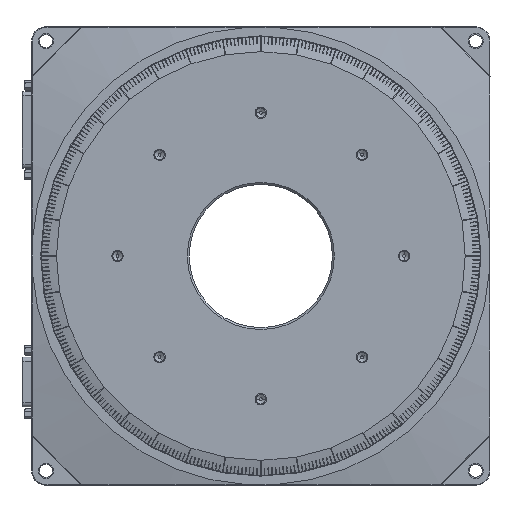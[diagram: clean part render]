
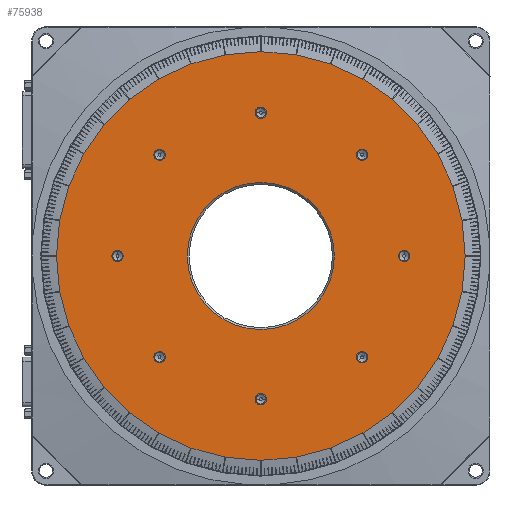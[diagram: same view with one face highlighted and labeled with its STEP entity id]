
A CAD part, front view. The second image highlights one B-rep face of the part: STEP entity #75938.
In plain terms, the highlighted planar face has unit normal (0, -1, 0) as drawn and (0, 1, 0) by its records, which use the part's own axes.
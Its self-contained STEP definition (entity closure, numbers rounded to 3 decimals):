
#41519=CARTESIAN_POINT('',(0.,5.531,0.));
#41520=DIRECTION('',(0.,1.,0.));
#41521=DIRECTION('',(0.,0.,-1.));
#41522=AXIS2_PLACEMENT_3D('',#41519,#41520,#41521);
#41527=CARTESIAN_POINT('',(0.,5.531,0.));
#41528=DIRECTION('',(0.,-1.,0.));
#41529=DIRECTION('',(0.,0.,-1.));
#41530=AXIS2_PLACEMENT_3D('',#41527,#41528,#41529);
#41535=CARTESIAN_POINT('',(0.,5.531,75.));
#41536=DIRECTION('',(0.,1.,0.));
#41537=DIRECTION('',(1.,0.,0.));
#41538=AXIS2_PLACEMENT_3D('',#41535,#41536,#41537);
#41543=CARTESIAN_POINT('',(0.,5.531,75.));
#41544=DIRECTION('',(0.,1.,0.));
#41545=DIRECTION('',(-1.,0.,0.));
#41546=AXIS2_PLACEMENT_3D('',#41543,#41544,#41545);
#41551=CARTESIAN_POINT('',(53.033,5.531,53.033));
#41552=DIRECTION('',(0.,1.,0.));
#41553=DIRECTION('',(0.707,0.,-0.707));
#41554=AXIS2_PLACEMENT_3D('',#41551,#41552,#41553);
#41559=CARTESIAN_POINT('',(53.033,5.531,53.033));
#41560=DIRECTION('',(0.,1.,0.));
#41561=DIRECTION('',(-0.707,0.,0.707));
#41562=AXIS2_PLACEMENT_3D('',#41559,#41560,#41561);
#41567=CARTESIAN_POINT('',(75.,5.531,0.));
#41568=DIRECTION('',(0.,1.,0.));
#41569=DIRECTION('',(0.,0.,-1.));
#41570=AXIS2_PLACEMENT_3D('',#41567,#41568,#41569);
#41575=CARTESIAN_POINT('',(75.,5.531,0.));
#41576=DIRECTION('',(0.,1.,0.));
#41577=DIRECTION('',(0.,0.,1.));
#41578=AXIS2_PLACEMENT_3D('',#41575,#41576,#41577);
#41583=CARTESIAN_POINT('',(53.033,5.531,-53.033));
#41584=DIRECTION('',(0.,1.,0.));
#41585=DIRECTION('',(-0.707,0.,-0.707));
#41586=AXIS2_PLACEMENT_3D('',#41583,#41584,#41585);
#41591=CARTESIAN_POINT('',(53.033,5.531,-53.033));
#41592=DIRECTION('',(0.,1.,0.));
#41593=DIRECTION('',(0.707,0.,0.707));
#41594=AXIS2_PLACEMENT_3D('',#41591,#41592,#41593);
#41599=CARTESIAN_POINT('',(0.,5.531,-75.));
#41600=DIRECTION('',(0.,1.,0.));
#41601=DIRECTION('',(-1.,0.,0.));
#41602=AXIS2_PLACEMENT_3D('',#41599,#41600,#41601);
#41607=CARTESIAN_POINT('',(0.,5.531,-75.));
#41608=DIRECTION('',(0.,1.,0.));
#41609=DIRECTION('',(1.,0.,0.));
#41610=AXIS2_PLACEMENT_3D('',#41607,#41608,#41609);
#41615=CARTESIAN_POINT('',(-53.033,5.531,-53.033));
#41616=DIRECTION('',(0.,1.,0.));
#41617=DIRECTION('',(-0.707,0.,0.707));
#41618=AXIS2_PLACEMENT_3D('',#41615,#41616,#41617);
#41623=CARTESIAN_POINT('',(-53.033,5.531,-53.033));
#41624=DIRECTION('',(0.,1.,0.));
#41625=DIRECTION('',(0.707,0.,-0.707));
#41626=AXIS2_PLACEMENT_3D('',#41623,#41624,#41625);
#41631=CARTESIAN_POINT('',(-75.,5.531,0.));
#41632=DIRECTION('',(0.,1.,0.));
#41633=DIRECTION('',(0.,0.,1.));
#41634=AXIS2_PLACEMENT_3D('',#41631,#41632,#41633);
#41639=CARTESIAN_POINT('',(-75.,5.531,0.));
#41640=DIRECTION('',(0.,1.,0.));
#41641=DIRECTION('',(0.,0.,-1.));
#41642=AXIS2_PLACEMENT_3D('',#41639,#41640,#41641);
#41647=CARTESIAN_POINT('',(-53.033,5.531,53.033));
#41648=DIRECTION('',(0.,1.,0.));
#41649=DIRECTION('',(0.707,0.,0.707));
#41650=AXIS2_PLACEMENT_3D('',#41647,#41648,#41649);
#41655=CARTESIAN_POINT('',(-53.033,5.531,53.033));
#41656=DIRECTION('',(0.,1.,0.));
#41657=DIRECTION('',(-0.707,0.,-0.707));
#41658=AXIS2_PLACEMENT_3D('',#41655,#41656,#41657);
#41663=CARTESIAN_POINT('',(0.,5.531,0.));
#41664=DIRECTION('',(0.,1.,0.));
#41665=DIRECTION('',(0.,0.,1.));
#41666=AXIS2_PLACEMENT_3D('',#41663,#41664,#41665);
#41671=CARTESIAN_POINT('',(0.,5.531,0.));
#41672=DIRECTION('',(0.,1.,0.));
#41673=DIRECTION('',(0.,0.,-1.));
#41674=AXIS2_PLACEMENT_3D('',#41671,#41672,#41673);
#42730=CARTESIAN_POINT('',(0.,5.531,-107.));
#42731=CARTESIAN_POINT('',(0.,5.531,107.));
#42732=VERTEX_POINT('',#42730);
#42733=VERTEX_POINT('',#42731);
#42738=CARTESIAN_POINT('',(2.5,5.531,75.));
#42739=CARTESIAN_POINT('',(-2.5,5.531,75.));
#42740=VERTEX_POINT('',#42738);
#42741=VERTEX_POINT('',#42739);
#42746=CARTESIAN_POINT('',(54.801,5.531,51.265));
#42747=CARTESIAN_POINT('',(51.265,5.531,54.801));
#42748=VERTEX_POINT('',#42746);
#42749=VERTEX_POINT('',#42747);
#42754=CARTESIAN_POINT('',(75.,5.531,-2.5));
#42755=CARTESIAN_POINT('',(75.,5.531,2.5));
#42756=VERTEX_POINT('',#42754);
#42757=VERTEX_POINT('',#42755);
#42762=CARTESIAN_POINT('',(51.265,5.531,-54.801));
#42763=CARTESIAN_POINT('',(54.801,5.531,-51.265));
#42764=VERTEX_POINT('',#42762);
#42765=VERTEX_POINT('',#42763);
#42770=CARTESIAN_POINT('',(-2.5,5.531,-75.));
#42771=CARTESIAN_POINT('',(2.5,5.531,-75.));
#42772=VERTEX_POINT('',#42770);
#42773=VERTEX_POINT('',#42771);
#42778=CARTESIAN_POINT('',(-54.801,5.531,-51.265));
#42779=CARTESIAN_POINT('',(-51.265,5.531,-54.801));
#42780=VERTEX_POINT('',#42778);
#42781=VERTEX_POINT('',#42779);
#42786=CARTESIAN_POINT('',(-75.,5.531,2.5));
#42787=CARTESIAN_POINT('',(-75.,5.531,-2.5));
#42788=VERTEX_POINT('',#42786);
#42789=VERTEX_POINT('',#42787);
#42794=CARTESIAN_POINT('',(-51.265,5.531,54.801));
#42795=CARTESIAN_POINT('',(-54.801,5.531,51.265));
#42796=VERTEX_POINT('',#42794);
#42797=VERTEX_POINT('',#42795);
#48128=CARTESIAN_POINT('',(0.,5.531,38.5));
#48129=CARTESIAN_POINT('',(0.,5.531,-38.5));
#48130=VERTEX_POINT('',#48128);
#48131=VERTEX_POINT('',#48129);
#75877=CARTESIAN_POINT('',(0.,5.531,0.));
#75878=DIRECTION('',(0.,1.,0.));
#75879=DIRECTION('',(0.,0.,-1.));
#75880=AXIS2_PLACEMENT_3D('',#75877,#75878,#75879);
#75881=PLANE('',#75880);
#75882=ORIENTED_EDGE('',*,*,#48330,.F.);
#75883=ORIENTED_EDGE('',*,*,#62325,.T.);
#75884=EDGE_LOOP('',(#75882,#75883));
#75885=FACE_OUTER_BOUND('',#75884,.F.);
#75887=ORIENTED_EDGE('',*,*,#75886,.T.);
#75889=ORIENTED_EDGE('',*,*,#75888,.T.);
#75890=EDGE_LOOP('',(#75887,#75889));
#75891=FACE_BOUND('',#75890,.F.);
#75893=ORIENTED_EDGE('',*,*,#75892,.T.);
#75895=ORIENTED_EDGE('',*,*,#75894,.T.);
#75896=EDGE_LOOP('',(#75893,#75895));
#75897=FACE_BOUND('',#75896,.F.);
#75899=ORIENTED_EDGE('',*,*,#75898,.T.);
#75901=ORIENTED_EDGE('',*,*,#75900,.T.);
#75902=EDGE_LOOP('',(#75899,#75901));
#75903=FACE_BOUND('',#75902,.F.);
#75905=ORIENTED_EDGE('',*,*,#75904,.T.);
#75907=ORIENTED_EDGE('',*,*,#75906,.T.);
#75908=EDGE_LOOP('',(#75905,#75907));
#75909=FACE_BOUND('',#75908,.F.);
#75911=ORIENTED_EDGE('',*,*,#75910,.T.);
#75913=ORIENTED_EDGE('',*,*,#75912,.T.);
#75914=EDGE_LOOP('',(#75911,#75913));
#75915=FACE_BOUND('',#75914,.F.);
#75917=ORIENTED_EDGE('',*,*,#75916,.T.);
#75919=ORIENTED_EDGE('',*,*,#75918,.T.);
#75920=EDGE_LOOP('',(#75917,#75919));
#75921=FACE_BOUND('',#75920,.F.);
#75923=ORIENTED_EDGE('',*,*,#75922,.T.);
#75925=ORIENTED_EDGE('',*,*,#75924,.T.);
#75926=EDGE_LOOP('',(#75923,#75925));
#75927=FACE_BOUND('',#75926,.F.);
#75929=ORIENTED_EDGE('',*,*,#75928,.T.);
#75931=ORIENTED_EDGE('',*,*,#75930,.T.);
#75932=EDGE_LOOP('',(#75929,#75931));
#75933=FACE_BOUND('',#75932,.F.);
#75934=ORIENTED_EDGE('',*,*,#48179,.T.);
#75935=ORIENTED_EDGE('',*,*,#48164,.T.);
#75936=EDGE_LOOP('',(#75934,#75935));
#75937=FACE_BOUND('',#75936,.F.);
#41523=CIRCLE('',#41522,107.);
#41531=CIRCLE('',#41530,107.);
#41539=CIRCLE('',#41538,2.5);
#41547=CIRCLE('',#41546,2.5);
#41555=CIRCLE('',#41554,2.5);
#41563=CIRCLE('',#41562,2.5);
#41571=CIRCLE('',#41570,2.5);
#41579=CIRCLE('',#41578,2.5);
#41587=CIRCLE('',#41586,2.5);
#41595=CIRCLE('',#41594,2.5);
#41603=CIRCLE('',#41602,2.5);
#41611=CIRCLE('',#41610,2.5);
#41619=CIRCLE('',#41618,2.5);
#41627=CIRCLE('',#41626,2.5);
#41635=CIRCLE('',#41634,2.5);
#41643=CIRCLE('',#41642,2.5);
#41651=CIRCLE('',#41650,2.5);
#41659=CIRCLE('',#41658,2.5);
#41667=CIRCLE('',#41666,38.5);
#41675=CIRCLE('',#41674,38.5);
#48164=EDGE_CURVE('',#48131,#48130,#41675,.T.);
#48179=EDGE_CURVE('',#48130,#48131,#41667,.T.);
#48330=EDGE_CURVE('',#42732,#42733,#41523,.T.);
#62325=EDGE_CURVE('',#42732,#42733,#41531,.T.);
#75886=EDGE_CURVE('',#42740,#42741,#41539,.T.);
#75888=EDGE_CURVE('',#42741,#42740,#41547,.T.);
#75892=EDGE_CURVE('',#42748,#42749,#41555,.T.);
#75894=EDGE_CURVE('',#42749,#42748,#41563,.T.);
#75898=EDGE_CURVE('',#42756,#42757,#41571,.T.);
#75900=EDGE_CURVE('',#42757,#42756,#41579,.T.);
#75904=EDGE_CURVE('',#42764,#42765,#41587,.T.);
#75906=EDGE_CURVE('',#42765,#42764,#41595,.T.);
#75910=EDGE_CURVE('',#42772,#42773,#41603,.T.);
#75912=EDGE_CURVE('',#42773,#42772,#41611,.T.);
#75916=EDGE_CURVE('',#42780,#42781,#41619,.T.);
#75918=EDGE_CURVE('',#42781,#42780,#41627,.T.);
#75922=EDGE_CURVE('',#42788,#42789,#41635,.T.);
#75924=EDGE_CURVE('',#42789,#42788,#41643,.T.);
#75928=EDGE_CURVE('',#42796,#42797,#41651,.T.);
#75930=EDGE_CURVE('',#42797,#42796,#41659,.T.);
#75938=ADVANCED_FACE('',(#75885,#75891,#75897,#75903,#75909,#75915,#75921,
#75927,#75933,#75937),#75881,.T.);
